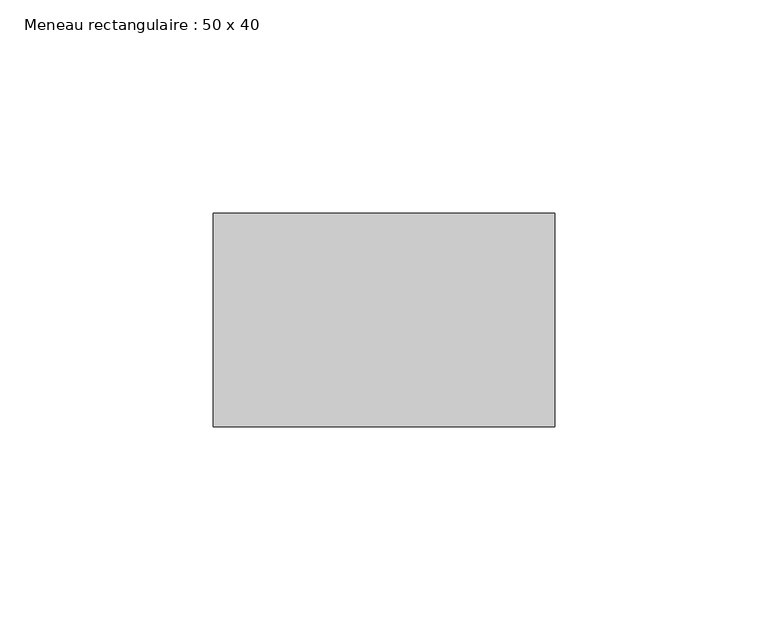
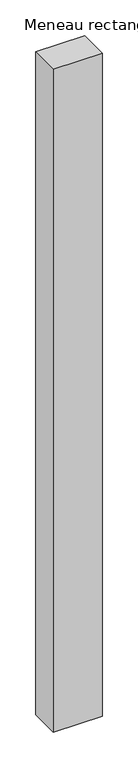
"""IFC4 building model written with IfcOpenShell, lengths in millimetres: member geometry, Meneau rectangulaire : 50 x 40."""

from ifc_helpers import new_model, si_unit, frame, origin, place, context, project, spatial, polyline, outline, extrude, source, transform, mapped, element, save


def meneau_rectangulaire_50_x_40_2277687b(model_context):
    return source(origin(), model_context, "Body", "SweptSolid", [
        extrude(outline(polyline([(40.0, 0.0), (40.0, -50.0), (-40.0, -50.0), (-40.0, 0.0), (40.0, 0.0)])), frame((0.0, 0.0, -1140.0), z_axis=(0.0, 0.0, 1.0), x_axis=(1.0, 0.0, 0.0)), (0.0, 0.0, 1.0), 1140.0),
    ])


if __name__ == "__main__":
    model = new_model("IFC4")
    model_context = context("Model", 3, world=origin())
    ifc_project = project(units=[si_unit("LENGTHUNIT", "METRE", prefix="MILLI")], contexts=[model_context])
    site = spatial("IfcSite", under=ifc_project)
    building = spatial("IfcBuilding", under=site)
    placement = place(None, origin())
    meneau_rectangulaire_50_x_40_shape = meneau_rectangulaire_50_x_40_2277687b(model_context)
    element("IfcMember", 1, ObjectType="Meneau rectangulaire : 50 x 40", at=placement, inside=building, context=model_context, shape_type="MappedRepresentation", body=[
        mapped(meneau_rectangulaire_50_x_40_shape, transform((0.0, 0.0, 0.0), x_axis=(1.0, 0.0, 0.0), y_axis=(0.0, 1.0, 0.0), z_axis=(0.0, 0.0, 1.0))),
    ])
    save(model, "model.ifc")
